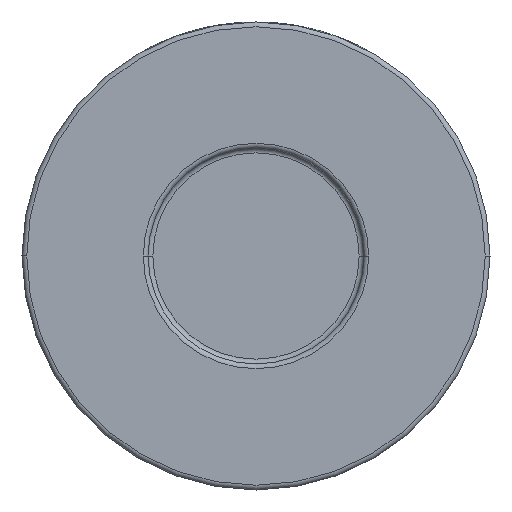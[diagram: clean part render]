
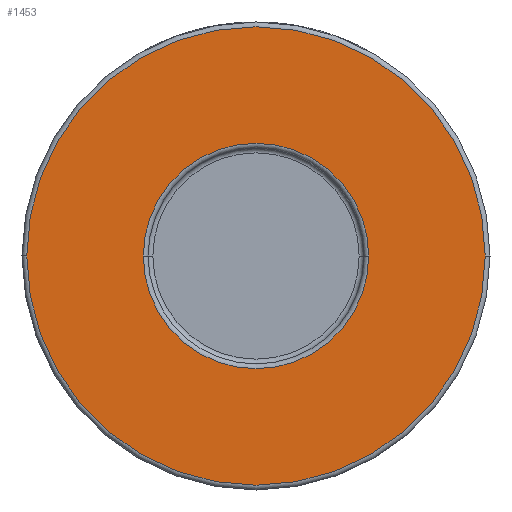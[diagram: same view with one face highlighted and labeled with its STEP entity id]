
A CAD part, front view. The second image highlights one B-rep face of the part: STEP entity #1453.
In plain terms, the highlighted planar face has unit normal (0, -1, 0).
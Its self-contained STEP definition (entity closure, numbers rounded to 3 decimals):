
#65 = EDGE_CURVE ( 'NONE', #4093, #2694, #3779, .T. ) ;
#125 = CARTESIAN_POINT ( 'NONE',  ( 0., -32., 0. ) ) ;
#344 = CIRCLE ( 'NONE', #2235, 23.6 ) ;
#587 = CIRCLE ( 'NONE', #2777, 48. ) ;
#626 = CARTESIAN_POINT ( 'NONE',  ( 23.6, -32., 0. ) ) ;
#695 = DIRECTION ( 'NONE',  ( 0., 1., 0. ) ) ;
#767 = DIRECTION ( 'NONE',  ( 1., 0., 0. ) ) ;
#818 = VERTEX_POINT ( 'NONE', #3458 ) ;
#1007 = EDGE_CURVE ( 'NONE', #1780, #818, #344, .T. ) ;
#1057 = AXIS2_PLACEMENT_3D ( 'NONE', #1080, #1393, #1870 ) ;
#1080 = CARTESIAN_POINT ( 'NONE',  ( 0., -32., 0. ) ) ;
#1393 = DIRECTION ( 'NONE',  ( 0., -1., 0. ) ) ;
#1453 = ADVANCED_FACE ( 'NONE', ( #2458, #1808 ), #3902, .T. ) ;
#1780 = VERTEX_POINT ( 'NONE', #626 ) ;
#1808 = FACE_OUTER_BOUND ( 'NONE', #2963, .T. ) ;
#1870 = DIRECTION ( 'NONE',  ( 1., 0., 0. ) ) ;
#2178 = EDGE_LOOP ( 'NONE', ( #2615, #2561 ) ) ;
#2235 = AXIS2_PLACEMENT_3D ( 'NONE', #4010, #695, #767 ) ;
#2458 = FACE_BOUND ( 'NONE', #2178, .T. ) ;
#2561 = ORIENTED_EDGE ( 'NONE', *, *, #3253, .T. ) ;
#2615 = ORIENTED_EDGE ( 'NONE', *, *, #1007, .T. ) ;
#2658 = CARTESIAN_POINT ( 'NONE',  ( 0., -32., 0. ) ) ;
#2694 = VERTEX_POINT ( 'NONE', #3118 ) ;
#2777 = AXIS2_PLACEMENT_3D ( 'NONE', #2658, #3692, #4457 ) ;
#2884 = DIRECTION ( 'NONE',  ( 0., -1., 0. ) ) ;
#2931 = DIRECTION ( 'NONE',  ( 0., 1., 0. ) ) ;
#2963 = EDGE_LOOP ( 'NONE', ( #3966, #4484 ) ) ;
#3118 = CARTESIAN_POINT ( 'NONE',  ( -48., -32., 0. ) ) ;
#3203 = AXIS2_PLACEMENT_3D ( 'NONE', #3208, #2884, #4664 ) ;
#3208 = CARTESIAN_POINT ( 'NONE',  ( 49., -32., 0. ) ) ;
#3253 = EDGE_CURVE ( 'NONE', #818, #1780, #4283, .T. ) ;
#3458 = CARTESIAN_POINT ( 'NONE',  ( -23.6, -32., 0. ) ) ;
#3614 = EDGE_CURVE ( 'NONE', #2694, #4093, #587, .T. ) ;
#3692 = DIRECTION ( 'NONE',  ( 0., -1., 0. ) ) ;
#3729 = DIRECTION ( 'NONE',  ( 1., 0., 0. ) ) ;
#3779 = CIRCLE ( 'NONE', #1057, 48. ) ;
#3902 = PLANE ( 'NONE',  #3203 ) ;
#3966 = ORIENTED_EDGE ( 'NONE', *, *, #65, .T. ) ;
#4010 = CARTESIAN_POINT ( 'NONE',  ( 0., -32., 0. ) ) ;
#4060 = AXIS2_PLACEMENT_3D ( 'NONE', #125, #2931, #3729 ) ;
#4093 = VERTEX_POINT ( 'NONE', #4633 ) ;
#4283 = CIRCLE ( 'NONE', #4060, 23.6 ) ;
#4457 = DIRECTION ( 'NONE',  ( 1., 0., 0. ) ) ;
#4484 = ORIENTED_EDGE ( 'NONE', *, *, #3614, .T. ) ;
#4633 = CARTESIAN_POINT ( 'NONE',  ( 48., -32., 0. ) ) ;
#4664 = DIRECTION ( 'NONE',  ( 1., 0., 0. ) ) ;
